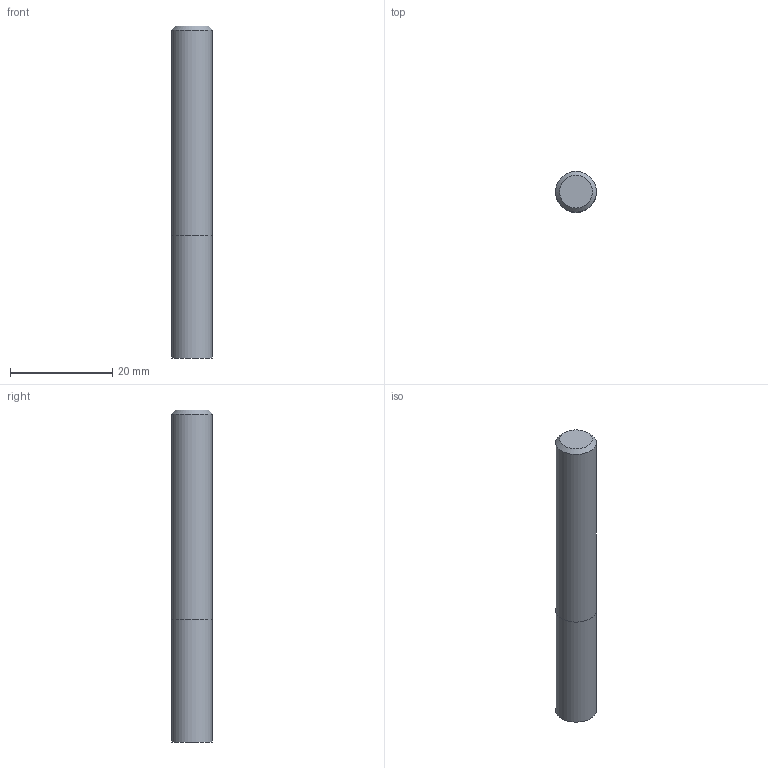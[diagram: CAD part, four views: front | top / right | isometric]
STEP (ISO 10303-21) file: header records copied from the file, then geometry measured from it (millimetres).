
FILE_DESCRIPTION((''),'2;1');
FILE_NAME('C:\Users\nsx150\AppData\Local\Temp\Mastercam 2021\E36A1X9CCL\TEMP.step','2023-04-21T15:18:32',(''),(''),'STEP Write','Mastercam 2021 ... CNC Software, Inc.','');
FILE_SCHEMA(('AUTOMOTIVE_DESIGN'));
Length unit declared in the file: millimetre
Products named in the file (1): None
Bounding box: 8 x 8 x 65 mm (x, y, z)
Volume: 3259.8 mm3; surface area: 1822.1 mm2
Topology: 2 solids, 2 shells, 7 faces, 8 edges, 5 vertices
Faces by surface type: plane 4, cylinder 2, cone 1
Full cylindrical faces by diameter (mm): 8 x2
Entity records: 169 total; most frequent: DIRECTION 28, CARTESIAN_POINT 19, AXIS2_PLACEMENT_3D 14, ORIENTED_EDGE 10, EDGE_LOOP 10, STYLED_ITEM 10, ADVANCED_FACE 7, VERTEX_POINT 5
